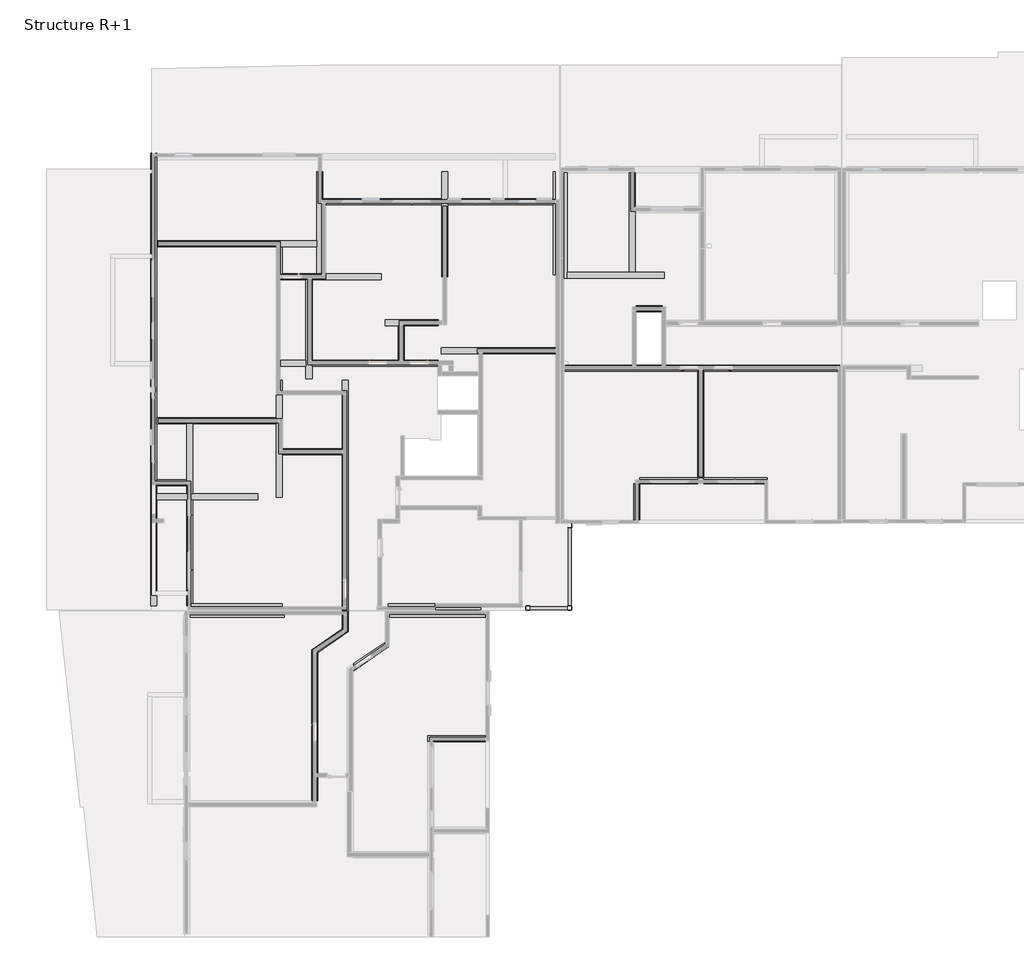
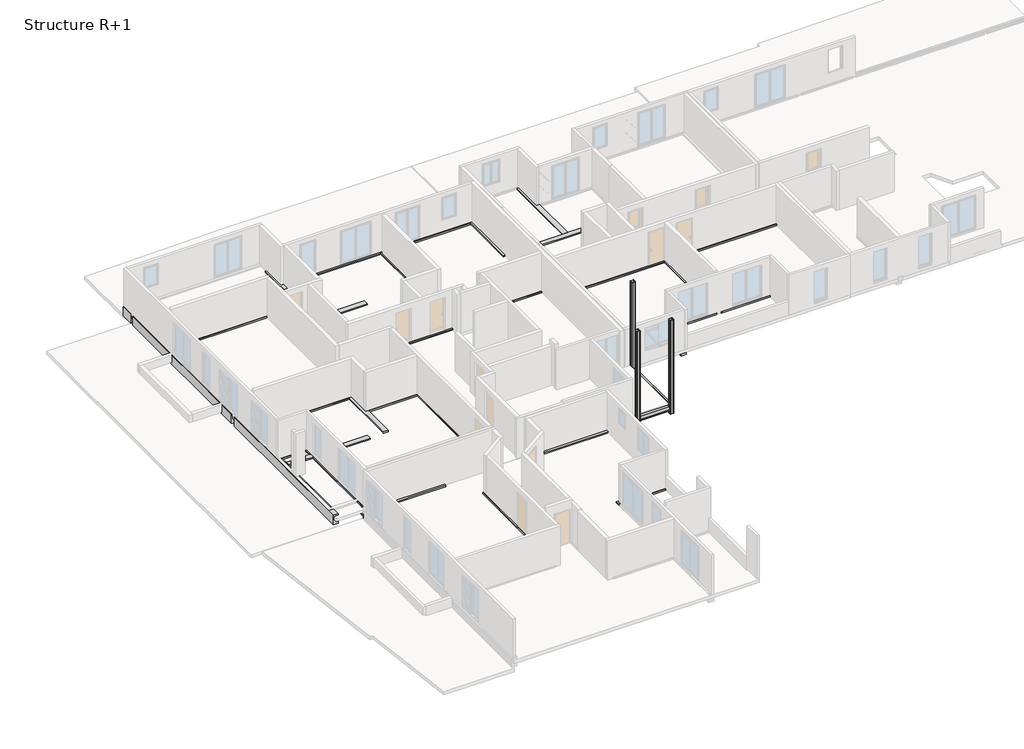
# One storey, part 9 of 11: 41 beams, 3 columns.
"""IFC4 building model written with IfcOpenShell, lengths in millimetres."""

from ifc_helpers import new_model, si_unit, frame, origin, place, context, project, spatial, polyline, outline, extrude, faceted_brep, transform, mapped, element, save
from components import beam_300_x_600_mm_29036b1c, beam_300_x_600_mm_495a3724, poutre_poutre_universelle_ub_305x165x40ub_514a329c, poutre_poutre_universelle_ub_305x165x40ub_894c53d9, poutre_poutre_universelle_ub_305x165x40ub_04567ed0, poutre_poutre_universelle_ub_305x165x40ub_460f90cb, poutre_poutre_universelle_ub_305x165x40ub_2bbb945a, tube_de_construction_hss_hss203x203x12_7_1b0c818d

model = new_model("IFC4")

# Units and contexts
model_context = context("Model", 3, world=origin())
ifc_project = project(units=[si_unit("LENGTHUNIT", "METRE", prefix="MILLI")], contexts=[model_context])

# Site, building, storey
site = spatial("IfcSite", under=ifc_project)
building = spatial("IfcBuilding", under=site)
storey = spatial("IfcBuildingStorey", under=building, Name="Structure R+1", Elevation=3320.0)

# Beams
placement = place(None, origin())
element("IfcBeam", 1, ObjectType="Poutre rectangulaire - Béton : 300 x 600 mm", at=placement, inside=storey, context=model_context, shape_type="Brep", body=[
    faceted_brep([(3506.907833, 32823.2515484, 2720.0), (3506.907833, 32823.2515484, 3320.0), (3536.9058449, 32823.2515484, 3320.0), (3536.9058449, 32823.2515484, 2720.0), (3506.907833, 20929.2306044, 3320.0), (3506.907833, 20929.2306044, 2720.0), (3506.907833, 10335.465256, 2720.0), (3506.907833, 10335.465256, 3320.0), (3751.4301413, 20929.2306044, 2720.0), (3751.4301413, 21229.2306044, 2720.0), (3506.907833, 21229.2306044, 2720.0), (3506.907833, 31818.092309, 2720.0), (3656.9078335, 31818.092309, 2720.0), (3656.9078335, 32028.092309, 2720.0), (3506.907833, 32028.092309, 2720.0), (3536.9058449, 32810.6398567, 2720.0), (3746.9058449, 32810.6398567, 2720.0), (3746.9058449, 32823.2515484, 2720.0), (3806.907833, 32823.2515484, 2720.0), (3806.907833, 32800.6398567, 2720.0), (3806.907833, 32500.6398567, 2720.0), (3806.907833, 19681.3462278, 2720.0), (3806.907833, 19381.3462278, 2720.0), (3806.907833, 16603.5845344, 2720.0), (3806.907833, 16303.5845344, 2720.0), (3806.907833, 15899.6332908, 2720.0), (3806.907833, 15599.6332908, 2720.0), (3806.907833, 10335.465256, 2720.0), (3806.907833, 32823.2515484, 3320.0), (3806.907833, 32800.6398567, 3320.0), (3806.907833, 32500.6398567, 3320.0), (3806.907833, 19681.3462278, 3320.0), (3806.907833, 19381.3462278, 3320.0), (3806.907833, 16603.5845344, 3320.0), (3806.907833, 16303.5845344, 3320.0), (3806.907833, 15899.6332908, 3320.0), (3806.907833, 15599.6332908, 3320.0), (3806.907833, 10335.465256, 3320.0), (3751.4301413, 21229.2306044, 3320.0), (3751.4301413, 20929.2306044, 3320.0), (3746.9058449, 32823.2515484, 3320.0), (3746.9058449, 32810.6398567, 3320.0), (3536.9058449, 32810.6398567, 3320.0), (3506.907833, 32028.092309, 3320.0), (3536.9058449, 32028.092309, 3320.0), (3536.9058449, 31818.092309, 3320.0), (3506.907833, 31818.092309, 3320.0), (3506.907833, 21229.2306044, 3320.0), (3536.9058449, 31818.092309, 3230.0), (3656.9078335, 31818.092309, 3230.0), (3656.9078335, 32028.092309, 3230.0), (3536.9058449, 32028.092309, 3230.0)], [[[0, 1, 2, 3]], [[4, 5, 6, 7]], [[8, 9, 10, 11, 12, 13, 14, 0, 3, 15, 16, 17, 18, 19, 20, 21, 22, 23, 24, 25, 26, 27, 6, 5]], [[18, 28, 29, 30, 31, 32, 33, 34, 35, 36, 37, 27, 26, 25, 24, 23, 22, 21, 20, 19]], [[38, 39, 4, 7, 37, 36, 35, 34, 33, 32, 31, 30, 29, 28, 40, 41, 42, 2, 1, 43, 44, 45, 46, 47]], [[8, 39, 38, 9]], [[39, 8, 5, 4]], [[9, 38, 47, 10]], [[10, 47, 46, 11]], [[12, 11, 46, 45, 48, 49]], [[14, 13, 50, 51, 44, 43]], [[1, 0, 14, 43]], [[7, 6, 27, 37]], [[16, 41, 40, 17]], [[42, 15, 3, 2]], [[41, 16, 15, 42]], [[28, 18, 17, 40]], [[12, 49, 50, 13]], [[48, 45, 44, 51]], [[49, 48, 51, 50]]]),
])
element("IfcBeam", 2, ObjectType="Poutre rectangulaire - Béton : 300 x 600 mm", at=placement, inside=storey, context=model_context, shape_type="Brep", body=[
    faceted_brep([(17949.2548774, 26679.7079561, 3320.0), (17949.2548774, 26679.7079561, 2720.0), (18249.2548774, 26679.7079561, 2720.0), (18249.2548774, 26679.7079561, 3320.0), (17949.2548774, 31905.1079561, 3320.0), (18249.2548774, 31905.1079561, 3320.0), (18249.2548774, 31905.1079561, 2720.0), (17949.2548774, 31905.1079561, 2720.0), (17949.2548774, 30260.628369, 3320.0), (17949.2548774, 30350.6398567, 3320.0), (17949.2548774, 30510.6398567, 3320.0), (17949.2548774, 30560.628369, 3320.0), (17949.2548774, 30560.628369, 2720.0), (17949.2548774, 30260.628369, 2720.0), (18249.2548774, 30560.628369, 2720.0), (18249.2548774, 30260.628369, 2720.0), (18249.2548774, 30560.628369, 3320.0), (18249.2548774, 30510.6398567, 3320.0), (18249.2548774, 30350.6398567, 3320.0), (18249.2548774, 30260.628369, 3320.0)], [[[0, 1, 2, 3]], [[4, 5, 6, 7]], [[1, 0, 8, 9, 10, 11, 4, 7, 12, 13]], [[2, 1, 13, 12, 7, 6, 14, 15]], [[3, 2, 15, 14, 6, 5, 16, 17, 18, 19]], [[0, 3, 19, 18, 17, 16, 5, 4, 11, 10, 9, 8]]]),
])
element("IfcBeam", 3, ObjectType="Poutre rectangulaire - Béton : 300 x 600 mm", at=placement, inside=storey, context=model_context, shape_type="Brep", body=[
    faceted_brep([(23499.3836177, 26779.7079561, 3320.0), (23499.3836177, 26779.7079561, 2720.0), (23799.3836177, 26779.7079561, 2720.0), (23799.3836177, 26779.7079561, 3320.0), (23499.3836177, 31905.1079561, 2720.0), (23499.3836177, 31905.1079561, 3320.0), (23609.3795366, 31905.1079561, 3320.0), (23609.3795366, 31905.1079561, 2720.0), (23499.3836177, 30260.628369, 3320.0), (23499.3836177, 30350.6398567, 3320.0), (23499.3836177, 30510.6398567, 3320.0), (23499.3836177, 30560.628369, 3320.0), (23499.3836177, 30560.628369, 2720.0), (23499.3836177, 30260.628369, 2720.0), (23609.3795366, 30510.6398567, 2720.0), (23799.3836177, 30510.6398567, 2720.0), (23799.3836177, 30510.6398567, 3320.0), (23609.3795366, 30510.6398567, 3320.0)], [[[0, 1, 2, 3]], [[4, 5, 6, 7]], [[1, 0, 8, 9, 10, 11, 5, 4, 12, 13]], [[2, 1, 13, 12, 4, 7, 14, 15]], [[3, 2, 15, 16]], [[0, 3, 16, 17, 6, 5, 11, 10, 9, 8]], [[17, 14, 7, 6]], [[14, 17, 16, 15]]]),
])
element("IfcBeam", 4, ObjectType="Poutre rectangulaire - Béton : 300 x 600 mm", at=placement, inside=storey, context=model_context, shape_type="Brep", body=[
    faceted_brep([(23889.3830554, 31860.3155595, 3230.0), (23889.3830554, 31860.3155595, 3320.0), (23939.4686156, 31860.3155595, 3320.0), (23939.4686156, 31860.3155595, 3230.0), (24189.3830554, 26623.3438639, 3320.0), (24189.3830554, 26623.3438639, 3230.0), (24189.3830554, 26923.3438639, 3230.0), (24189.3830554, 31857.4959984, 3230.0), (24189.3830554, 31857.4959984, 3320.0), (24189.3830554, 26923.3438639, 3320.0), (23889.3830554, 26623.3438639, 3320.0), (24031.9389593, 31857.4959984, 3320.0), (23939.4686156, 31857.4959984, 3320.0), (23889.3830554, 26623.3438639, 3230.0), (23939.4686156, 31857.4959984, 3230.0), (24031.9389593, 31857.4959984, 3230.0)], [[[0, 1, 2, 3]], [[4, 5, 6, 7, 8, 9]], [[1, 10, 4, 9, 8, 11, 12, 2]], [[13, 0, 3, 14, 15, 7, 6, 5]], [[1, 0, 13, 10]], [[14, 12, 11, 8, 7, 15]], [[4, 10, 13, 5]], [[12, 14, 3, 2]]]),
    faceted_brep([(23889.3830554, 26623.3438639, 2720.0), (23889.3830554, 31860.3155595, 2720.0), (23939.4686156, 31860.3155595, 2720.0), (23939.4686156, 31857.4959984, 2720.0), (24189.3830554, 31857.4959984, 2720.0), (24189.3830554, 26923.3438639, 2720.0), (24189.3830554, 26623.3438639, 2720.0), (23889.3830554, 31860.3155595, 3030.0), (23889.3830554, 26623.3438639, 3030.0), (24189.3830554, 26623.3438639, 3030.0), (24189.3830554, 26923.3438639, 3030.0), (24189.3830554, 31857.4959984, 3030.0), (23939.4686156, 31857.4959984, 3030.0), (23939.4686156, 31860.3155595, 3030.0)], [[[0, 1, 2, 3, 4, 5, 6]], [[7, 1, 0, 8]], [[7, 8, 9, 10, 11, 12, 13]], [[1, 7, 13, 2]], [[9, 6, 5, 4, 11, 10]], [[3, 12, 11, 4]], [[0, 6, 9, 8]], [[12, 3, 2, 13]]]),
])
element("IfcBeam", 5, ObjectType="Poutre rectangulaire - Béton : 300 x 600 mm", at=placement, inside=storey, context=model_context, shape_type="SweptSolid", body=[
    extrude(outline(polyline([(30560.628369, 3320.0), (30560.628369, 2720.0), (30260.628369, 2720.0), (30260.628369, 3320.0), (30350.6398567, 3320.0), (30350.6398567, 3230.0), (30510.6398567, 3230.0), (30510.6398567, 3320.0), (30560.628369, 3320.0)])), frame((18249.2548774, 0.0, 0.0), z_axis=(1.0, 0.0, 0.0), x_axis=(0.0, 1.0, 0.0)), (0.0, 0.0, 1.0), 5250.1287403),
    extrude(outline(polyline([(30350.6398567, 3230.0), (30510.6398567, 3230.0), (30510.6398567, 3320.0), (30560.628369, 3320.0), (30560.628369, 2720.0), (30260.628369, 2720.0), (30260.628369, 3320.0), (30350.6398567, 3320.0), (30350.6398567, 3230.0)])), frame((12053.2655763, 0.0, 0.0), z_axis=(1.0, 0.0, 0.0), x_axis=(0.0, 1.0, 0.0)), (0.0, 0.0, 1.0), 5895.9893011),
])
element("IfcBeam", 6, ObjectType="Poutre rectangulaire - Béton : 300 x 600 mm", at=placement, inside=storey, context=model_context, shape_type="Brep", body=[
    faceted_brep([(11753.2655763, 31904.9893421, 3320.0), (12053.2655763, 31904.9893421, 3320.0), (12053.2655763, 31904.9893421, 2720.0), (11753.2655763, 31904.9893421, 2720.0), (11753.2655763, 28474.6168533, 2720.0), (11753.2655763, 28174.6168533, 2720.0), (11753.2655763, 26837.1707281, 2720.0), (11753.2655763, 26837.1707281, 3320.0), (11753.2655763, 28174.6168533, 3320.0), (11753.2655763, 28474.6168533, 3320.0), (12053.2655763, 30560.628369, 2720.0), (12053.2655763, 30260.628369, 2720.0), (12053.2655763, 26837.1707281, 2720.0), (12053.2655763, 30560.628369, 3320.0), (12053.2655763, 30510.6398567, 3320.0), (12053.2655763, 30350.6398567, 3320.0), (12053.2655763, 30260.628369, 3320.0), (12053.2655763, 26837.1707281, 3320.0)], [[[0, 1, 2, 3]], [[0, 3, 4, 5, 6, 7, 8, 9]], [[3, 2, 10, 11, 12, 6, 5, 4]], [[2, 1, 13, 14, 15, 16, 17, 12, 11, 10]], [[1, 0, 9, 8, 7, 17, 16, 15, 14, 13]], [[7, 6, 12, 17]]]),
])
element("IfcBeam", 7, ObjectType="Poutre rectangulaire - Béton : 300 x 600 mm", at=placement, inside=storey, context=model_context, shape_type="Brep", body=[
    faceted_brep([(14958.844284, 26537.1707281, 3320.0), (14958.844284, 26537.1707281, 2720.0), (14958.844284, 26837.1707281, 2720.0), (14958.844284, 26837.1707281, 3320.0), (11511.7134936, 26537.1707281, 3320.0), (11211.7134936, 26537.1707281, 3320.0), (9728.0971315, 26537.1707281, 3320.0), (9728.0971315, 26537.1707281, 2720.0), (11211.7134936, 26537.1707281, 2720.0), (11511.7134936, 26537.1707281, 2720.0), (9728.0971315, 26837.1707281, 2720.0), (10028.0971315, 26837.1707281, 2720.0), (11753.2655763, 26837.1707281, 2720.0), (12053.2655763, 26837.1707281, 2720.0), (9728.0971315, 26837.1707281, 3320.0), (10028.0971315, 26837.1707281, 3320.0), (11753.2655763, 26837.1707281, 3320.0), (12053.2655763, 26837.1707281, 3320.0)], [[[0, 1, 2, 3]], [[1, 0, 4, 5, 6, 7, 8, 9]], [[2, 1, 9, 8, 7, 10, 11, 12, 13]], [[3, 2, 13, 12, 11, 10, 14, 15, 16, 17]], [[0, 3, 17, 16, 15, 14, 6, 5, 4]], [[7, 6, 14, 10]]]),
])
element("IfcBeam", 8, ObjectType="Poutre rectangulaire - Béton : 300 x 600 mm", at=placement, inside=storey, context=model_context, shape_type="Brep", body=[
    faceted_brep([(11211.7134936, 21621.4699718, 3320.0), (11211.7134936, 21621.4699718, 2720.0), (11511.7134936, 21621.4699718, 2720.0), (11511.7134936, 21621.4699718, 3320.0), (11211.7134936, 22228.2793913, 3320.0), (11211.7134936, 22528.2793913, 3320.0), (11211.7134936, 26537.1707281, 3320.0), (11211.7134936, 26537.1707281, 2720.0), (11211.7134936, 22528.2793913, 2720.0), (11211.7134936, 22228.2793913, 2720.0), (11511.7134936, 26537.1707281, 2720.0), (11511.7134936, 22528.2793913, 2720.0), (11511.7134936, 22228.2793913, 2720.0), (11511.7134936, 26537.1707281, 3320.0), (11511.7134936, 22528.2793913, 3320.0), (11511.7134936, 22228.2793913, 3320.0)], [[[0, 1, 2, 3]], [[1, 0, 4, 5, 6, 7, 8, 9]], [[2, 1, 9, 8, 7, 10, 11, 12]], [[3, 2, 12, 11, 10, 13, 14, 15]], [[0, 3, 15, 14, 13, 6, 5, 4]], [[7, 6, 13, 10]]]),
])
element("IfcBeam", 9, ObjectType="Poutre rectangulaire - Béton : 300 x 600 mm", at=placement, inside=storey, context=model_context, shape_type="Brep", body=[
    faceted_brep([(9955.8905136, 22528.2793913, 3320.0), (9955.8905136, 22528.2793913, 2720.0), (9955.8905136, 22228.2793913, 2720.0), (9955.8905136, 22228.2793913, 3320.0), (11211.7134936, 22528.2793913, 3320.0), (11211.7134936, 22528.2793913, 2720.0), (11211.7134936, 22228.2793913, 2720.0), (11211.7134936, 22228.2793913, 3320.0)], [[[0, 1, 2, 3]], [[1, 0, 4, 5]], [[2, 1, 5, 6]], [[3, 2, 6, 7]], [[0, 3, 7, 4]], [[5, 4, 7, 6]]]),
    faceted_brep([(17777.2905136, 22528.2793913, 3320.0), (17777.2905136, 22228.2793913, 3320.0), (17777.2905136, 22228.2793913, 2720.0), (17777.2905136, 22528.2793913, 2720.0), (11511.7134936, 22528.2793913, 3320.0), (11511.7134936, 22528.2793913, 2720.0), (11511.7134936, 22228.2793913, 2720.0), (11511.7134936, 22228.2793913, 3320.0), (16101.5704733, 22528.2793913, 2720.0), (15801.5704733, 22528.2793913, 2720.0), (15801.5704733, 22528.2793913, 3320.0), (16101.5704733, 22528.2793913, 3320.0)], [[[0, 1, 2, 3]], [[4, 5, 6, 7]], [[0, 3, 8, 9, 5, 4, 10, 11]], [[3, 2, 6, 5, 9, 8]], [[2, 1, 7, 6]], [[1, 0, 11, 10, 4, 7]]]),
])
element("IfcBeam", 10, ObjectType="Poutre rectangulaire - Béton : 300 x 600 mm", at=placement, inside=storey, context=model_context, shape_type="Brep", body=[
    faceted_brep([(15152.3745996, 24553.1590231, 3320.0), (15152.3745996, 24553.1590231, 2720.0), (15152.3745996, 24253.1590231, 2720.0), (15152.3745996, 24253.1590231, 3320.0), (17777.7745996, 24553.1590231, 3320.0), (17777.7745996, 24253.1590231, 3320.0), (17777.7745996, 24253.1590231, 2720.0), (17777.7745996, 24553.1590231, 2720.0), (16101.5704733, 24253.1590231, 2720.0), (15801.5704733, 24253.1590231, 2720.0), (16101.5704733, 24253.1590231, 3320.0), (15801.5704733, 24253.1590231, 3320.0)], [[[0, 1, 2, 3]], [[4, 5, 6, 7]], [[1, 0, 4, 7]], [[2, 1, 7, 6, 8, 9]], [[3, 2, 9, 8, 6, 5, 10, 11]], [[0, 3, 11, 10, 5, 4]]]),
])
element("IfcBeam", 11, ObjectType="Poutre rectangulaire - Béton : 300 x 600 mm", at=placement, inside=storey, context=model_context, shape_type="SweptSolid", body=[
    extrude(outline(polyline([(16101.5704733, 22528.2793913), (15801.5704733, 22528.2793913), (15801.5704733, 24253.1590231), (16101.5704733, 24253.1590231), (16101.5704733, 22528.2793913)])), frame((0.0, 0.0, 2720.0), z_axis=(0.0, 0.0, 1.0), x_axis=(1.0, 0.0, 0.0)), (0.0, 0.0, 1.0), 600.0),
])
element("IfcBeam", 12, ObjectType="Poutre rectangulaire - Béton : 300 x 600 mm", at=placement, inside=storey, context=model_context, shape_type="Brep", body=[
    faceted_brep([(3845.3857106, 28174.6168533, 3320.0), (3845.3857106, 28474.6168533, 3320.0), (3845.3857106, 28474.6168533, 2720.0), (3845.3857106, 28174.6168533, 2720.0), (9728.0971315, 28174.6168533, 2720.0), (10028.0971315, 28174.6168533, 2720.0), (11753.2655763, 28174.6168533, 2720.0), (11753.2655763, 28174.6168533, 3320.0), (10028.0971315, 28174.6168533, 3320.0), (9728.0971315, 28174.6168533, 3320.0), (11753.2655763, 28474.6168533, 2720.0), (11753.2655763, 28474.6168533, 3320.0)], [[[0, 1, 2, 3]], [[0, 3, 4, 5, 6, 7, 8, 9]], [[3, 2, 10, 6, 5, 4]], [[2, 1, 11, 10]], [[1, 0, 9, 8, 7, 11]], [[7, 6, 10, 11]]]),
])
element("IfcBeam", 13, ObjectType="Poutre rectangulaire - Béton : 300 x 600 mm", at=placement, inside=storey, context=model_context, shape_type="SweptSolid", body=[
    extrude(outline(polyline([(10028.0971315, 26837.1707281), (9728.0971315, 26837.1707281), (9728.0971315, 28174.6168533), (10028.0971315, 28174.6168533), (10028.0971315, 26837.1707281)])), frame((0.0, 0.0, 2720.0), z_axis=(0.0, 0.0, 1.0), x_axis=(1.0, 0.0, 0.0)), (0.0, 0.0, 1.0), 600.0),
])
element("IfcBeam", 14, ObjectType="Poutre rectangulaire - Béton : 300 x 600 mm", at=placement, inside=storey, context=model_context, shape_type="Brep", body=[
    faceted_brep([(9728.0971315, 19381.3462278, 2720.0), (9728.0971315, 19381.3462278, 3320.0), (5579.8938199, 19381.3462278, 3320.0), (5279.8938199, 19381.3462278, 3320.0), (3806.907833, 19381.3462278, 3320.0), (3806.907833, 19381.3462278, 2720.0), (5279.8938199, 19381.3462278, 2720.0), (5579.8938199, 19381.3462278, 2720.0), (9728.0971315, 19681.3462278, 2720.0), (3806.907833, 19681.3462278, 2720.0), (9728.0971315, 19681.3462278, 3320.0), (3806.907833, 19681.3462278, 3320.0)], [[[0, 1, 2, 3, 4, 5, 6, 7]], [[8, 0, 7, 6, 5, 9]], [[10, 8, 9, 11]], [[1, 10, 11, 4, 3, 2]], [[1, 0, 8, 10]], [[5, 4, 11, 9]]]),
])
element("IfcBeam", 15, ObjectType="Poutre rectangulaire - Béton : 300 x 600 mm", at=placement, inside=storey, context=model_context, shape_type="Brep", body=[
    faceted_brep([(9728.0971315, 15737.0479375, 3320.0), (9728.0971315, 15737.0479375, 2720.0), (10028.0971315, 15737.0479375, 2720.0), (10028.0971315, 15737.0479375, 3320.0), (9728.0971315, 21538.4479375, 3320.0), (10028.0971315, 21538.4479375, 3320.0), (10028.0971315, 21538.4479375, 2720.0), (9728.0971315, 21538.4479375, 2720.0), (9728.0971315, 19381.3462278, 3320.0), (9728.0971315, 19681.3462278, 3320.0), (9728.0971315, 19681.3462278, 2720.0), (9728.0971315, 19381.3462278, 2720.0), (10028.0971315, 18134.4405074, 2720.0), (10028.0971315, 17834.4405074, 2720.0), (10028.0971315, 18134.4405074, 3320.0), (10028.0971315, 17834.4405074, 3320.0)], [[[0, 1, 2, 3]], [[4, 5, 6, 7]], [[1, 0, 8, 9, 4, 7, 10, 11]], [[2, 1, 11, 10, 7, 6, 12, 13]], [[3, 2, 13, 12, 6, 5, 14, 15]], [[0, 3, 15, 14, 5, 4, 9, 8]]]),
])
element("IfcBeam", 16, ObjectType="Poutre rectangulaire - Béton : 300 x 600 mm", at=placement, inside=storey, context=model_context, shape_type="Brep", body=[
    faceted_brep([(13025.0967812, 21538.3874774, 3320.0), (13325.0967812, 21538.3874774, 3320.0), (13325.0967812, 21538.3874774, 2720.0), (13025.0967812, 21538.3874774, 2720.0), (13025.0967812, 18134.4405074, 2720.0), (13025.0967812, 17834.4405074, 2720.0), (13025.0967812, 9204.6450429, 2720.0), (13025.0967812, 8841.1797514, 2720.0), (13025.0967812, 8841.1797514, 3320.0), (13025.0967812, 9204.6450429, 3320.0), (13025.0967812, 17834.4405074, 3320.0), (13025.0967812, 18134.4405074, 3320.0), (13325.0967812, 9046.3796982, 2720.0), (13325.0967812, 9046.3796982, 3320.0)], [[[0, 1, 2, 3]], [[0, 3, 4, 5, 6, 7, 8, 9, 10, 11]], [[3, 2, 12, 7, 6, 5, 4]], [[2, 1, 13, 12]], [[1, 0, 11, 10, 9, 8, 13]], [[8, 7, 12, 13]]]),
])
element("IfcBeam", 17, ObjectType="Poutre rectangulaire - Béton : 300 x 600 mm", at=placement, inside=storey, context=model_context, shape_type="Brep", body=[
    faceted_brep([(10022.5938159, 10135.465256, 3320.0), (10022.5938159, 10135.465256, 2720.0), (10022.5938159, 10435.465256, 2720.0), (10022.5938159, 10435.465256, 3320.0), (5329.893812, 10135.465256, 3320.0), (5329.893812, 10135.465256, 2720.0), (5329.893812, 10335.465256, 2720.0), (5279.8938199, 10335.465256, 2720.0), (5279.8938199, 10435.465256, 2720.0), (5579.8938199, 10435.465256, 2720.0), (5279.8938199, 10435.465256, 3320.0), (5329.893812, 10435.465256, 3320.0), (5489.893812, 10435.465256, 3320.0), (5579.8938199, 10435.465256, 3320.0), (5279.8938199, 10335.465256, 3320.0), (5329.893812, 10335.465256, 3320.0)], [[[0, 1, 2, 3]], [[1, 0, 4, 5]], [[2, 1, 5, 6, 7, 8, 9]], [[3, 2, 9, 8, 10, 11, 12, 13]], [[0, 3, 13, 12, 11, 10, 14, 15, 4]], [[10, 8, 7, 14]], [[6, 15, 14, 7]], [[15, 6, 5, 4]]]),
])
element("IfcBeam", 18, ObjectType="Poutre rectangulaire - Béton : 300 x 600 mm", at=placement, inside=storey, context=model_context, shape_type="Brep", body=[
    faceted_brep([(10122.3667008, 10055.4658562, 3320.0), (10122.3667008, 9755.4658562, 3320.0), (10122.3667008, 9755.4658562, 2720.0), (10122.3667008, 10055.4658562, 2720.0), (5184.2512184, 10055.4658562, 2720.0), (5184.2512184, 10055.4658562, 3320.0), (5432.5654203, 9755.4658562, 2720.0), (5432.5654203, 9987.8502714, 2720.0), (5184.2512184, 9987.8502714, 2720.0), (5432.5654203, 9755.4658562, 3320.0), (5184.2512184, 9987.8502714, 3320.0), (5432.5654203, 9987.8502714, 3320.0), (5432.5654203, 9895.4625547, 3320.0), (5432.5654203, 9987.8502714, 3230.0), (5184.2512184, 9987.8502714, 3030.0)], [[[0, 1, 2, 3]], [[0, 3, 4, 5]], [[3, 2, 6, 7, 8, 4]], [[2, 1, 9, 6]], [[1, 0, 5, 10, 11, 12, 9]], [[11, 13, 7, 6, 9, 12]], [[7, 13, 11, 10, 14, 8]], [[5, 4, 8, 14, 10]]]),
])
element("IfcBeam", 19, ObjectType="Poutre rectangulaire - Béton : 300 x 600 mm", at=placement, inside=storey, context=model_context, shape_type="Brep", body=[
    faceted_brep([(8819.607833, 15599.6332908, 3320.0), (8819.607833, 15599.6332908, 2720.0), (8819.607833, 15899.6332908, 2720.0), (8819.607833, 15899.6332908, 3320.0), (5579.8938199, 15599.6332908, 3320.0), (5489.893812, 15599.6332908, 3320.0), (5329.893812, 15599.6332908, 3320.0), (5279.8938199, 15599.6332908, 3320.0), (3806.907833, 15599.6332908, 3320.0), (3806.907833, 15599.6332908, 2720.0), (5279.8938199, 15599.6332908, 2720.0), (5579.8938199, 15599.6332908, 2720.0), (3806.907833, 15899.6332908, 2720.0), (5279.8938199, 15899.6332908, 2720.0), (5579.8938199, 15899.6332908, 2720.0), (3806.907833, 15899.6332908, 3320.0), (5279.8938199, 15899.6332908, 3320.0), (5329.893812, 15899.6332908, 3320.0), (5489.893812, 15899.6332908, 3320.0), (5579.8938199, 15899.6332908, 3320.0)], [[[0, 1, 2, 3]], [[1, 0, 4, 5, 6, 7, 8, 9, 10, 11]], [[2, 1, 11, 10, 9, 12, 13, 14]], [[3, 2, 14, 13, 12, 15, 16, 17, 18, 19]], [[0, 3, 19, 18, 17, 16, 15, 8, 7, 6, 5, 4]], [[9, 8, 15, 12]]]),
])
element("IfcBeam", 20, ObjectType="Poutre rectangulaire - Béton : 300 x 600 mm", at=placement, inside=storey, context=model_context, shape_type="Brep", body=[
    faceted_brep([(5279.8938199, 15899.6332908, 2720.0), (5279.8938199, 15899.6332908, 3320.0), (5279.8938199, 16303.5845344, 3320.0), (5279.8938199, 16603.5845344, 3320.0), (5279.8938199, 19381.3462278, 3320.0), (5279.8938199, 19381.3462278, 2720.0), (5279.8938199, 16603.5845344, 2720.0), (5279.8938199, 16303.5845344, 2720.0), (5579.8938199, 15899.6332908, 2720.0), (5579.8938199, 19381.3462278, 2720.0), (5579.8938199, 15899.6332908, 3320.0), (5579.8938199, 19381.3462278, 3320.0), (5329.893812, 15899.6332908, 3320.0), (5329.893812, 16515.4652425, 3320.0), (5489.893812, 16515.4652425, 3320.0), (5489.893812, 15899.6332908, 3320.0), (5329.893812, 15899.6332908, 3230.0), (5329.893812, 16515.4652425, 3230.0), (5489.893812, 15899.6332908, 3230.0), (5489.893812, 16515.4652425, 3230.0)], [[[0, 1, 2, 3, 4, 5, 6, 7]], [[8, 0, 7, 6, 5, 9]], [[10, 8, 9, 11]], [[12, 13, 14, 15, 10, 11, 4, 3, 2, 1]], [[16, 17, 13, 12]], [[1, 0, 8, 10, 15, 18, 16, 12]], [[17, 19, 14, 13]], [[19, 17, 16, 18]], [[5, 4, 11, 9]], [[14, 19, 18, 15]]]),
    faceted_brep([(5279.8938199, 15599.6332908, 2720.0), (5279.8938199, 15599.6332908, 3320.0), (5329.893812, 15599.6332908, 3320.0), (5329.893812, 15599.6332908, 3230.0), (5489.893812, 15599.6332908, 3230.0), (5489.893812, 15599.6332908, 3320.0), (5579.8938199, 15599.6332908, 3320.0), (5579.8938199, 15599.6332908, 2720.0), (5279.8938199, 10435.465256, 2720.0), (5579.8938199, 10435.465256, 2720.0), (5579.8938199, 10435.465256, 3320.0), (5489.893812, 10435.465256, 3320.0), (5489.893812, 10435.465256, 3230.0), (5329.893812, 10435.465256, 3230.0), (5329.893812, 10435.465256, 3320.0), (5279.8938199, 10435.465256, 3320.0)], [[[0, 1, 2, 3, 4, 5, 6, 7]], [[8, 9, 10, 11, 12, 13, 14, 15]], [[4, 3, 13, 12]], [[1, 0, 8, 15]], [[0, 7, 9, 8]], [[7, 6, 10, 9]], [[6, 5, 11, 10]], [[3, 2, 14, 13]], [[5, 4, 12, 11]], [[2, 1, 15, 14]]]),
])
element("IfcBeam", 21, ObjectType="Poutre rectangulaire - Béton : 300 x 600 mm", at=placement, inside=storey, context=model_context, shape_type="SweptSolid", body=[
    extrude(outline(polyline([(3806.907833, 16303.5845344), (3806.907833, 16603.5845344), (5279.8938199, 16603.5845344), (5279.8938199, 16303.5845344), (3806.907833, 16303.5845344)])), frame((0.0, 0.0, 2720.0), z_axis=(0.0, 0.0, 1.0), x_axis=(1.0, 0.0, 0.0)), (0.0, 0.0, 1.0), 600.0),
])
element("IfcBeam", 22, ObjectType="Poutre rectangulaire - Béton : 300 x 600 mm", at=placement, inside=storey, context=model_context, shape_type="SweptSolid", body=[
    extrude(outline(polyline([(10028.0971315, 17834.4405074), (10028.0971315, 18134.4405074), (13025.0967812, 18134.4405074), (13025.0967812, 17834.4405074), (10028.0971315, 17834.4405074)])), frame((0.0, 0.0, 2720.0), z_axis=(0.0, 0.0, 1.0), x_axis=(1.0, 0.0, 0.0)), (0.0, 0.0, 1.0), 600.0),
])
element("IfcBeam", 23, ObjectType="Poutre rectangulaire - Béton : 300 x 600 mm", at=placement, inside=storey, context=model_context, shape_type="SweptSolid", body=[
    extrude(outline(polyline([(15147.7086163, 8533.8061873), (15317.078252, 8286.1896966), (13571.3920271, 7092.1406286), (13571.3920271, 7455.6059202), (15147.7086163, 8533.8061873)])), frame((0.0, 0.0, 2720.0), z_axis=(0.0, 0.0, 1.0), x_axis=(1.0, 0.0, 0.0)), (0.0, 0.0, 1.0), 600.0),
])
element("IfcBeam", 24, ObjectType="Poutre rectangulaire - Béton : 300 x 600 mm", at=placement, inside=storey, context=model_context, shape_type="Brep", body=[
    faceted_brep([(20168.2499099, 3881.8241455, 3320.0), (20168.2499099, 3581.8241455, 3320.0), (20168.2499099, 3581.8241455, 2720.0), (20168.2499099, 3881.8241455, 2720.0), (17573.1790818, 3881.8241455, 2720.0), (17573.1790818, 3881.8241455, 3030.0), (17273.1790818, 3881.8241455, 3030.0), (17273.1790818, 3881.8241455, 3320.0), (17573.1790818, 3581.8241455, 2720.0), (17573.1790818, 3581.8241455, 3320.0), (17273.1790818, 3581.8241455, 3320.0), (17273.1790818, 3581.8241455, 3030.0), (17573.1790818, 3581.8241455, 3030.0)], [[[0, 1, 2, 3]], [[0, 3, 4, 5, 6, 7]], [[3, 2, 8, 4]], [[2, 1, 9, 10, 11, 12, 8]], [[1, 0, 7, 10, 9]], [[12, 5, 4, 8]], [[5, 12, 11, 6]], [[10, 7, 6, 11]]]),
])
element("IfcBeam", 25, ObjectType="Poutre rectangulaire - Béton : 300 x 600 mm", at=placement, inside=storey, context=model_context, shape_type="Brep", body=[
    faceted_brep([(11787.2274568, 8357.9426449, 2720.0), (11787.2274568, 8357.9426449, 3320.0), (11787.2274568, 7994.4773533, 3320.0), (11787.2274568, 636.6320402, 3320.0), (11787.2274568, 636.6320402, 2720.0), (11787.2274568, 7994.4773533, 2720.0), (11487.2274568, 636.6320402, 2720.0), (11487.2274568, 8152.7426981, 2720.0), (11487.2274568, 636.6320402, 3320.0), (11487.2274568, 8152.7426981, 3320.0)], [[[0, 1, 2, 3, 4, 5]], [[4, 6, 7, 0, 5]], [[6, 8, 9, 7]], [[8, 3, 2, 1, 9]], [[4, 3, 8, 6]], [[1, 0, 7, 9]]]),
])
element("IfcBeam", 26, ObjectType="Poutre rectangulaire - Béton : 300 x 600 mm", at=placement, inside=storey, context=model_context, shape_type="SweptSolid", body=[
    extrude(outline(polyline([(11787.2274568, 7994.4773533), (11787.2274568, 8357.9426449), (13025.0967812, 9204.6450429), (13025.0967812, 8841.1797514), (11787.2274568, 7994.4773533)])), frame((0.0, 0.0, 2720.0), z_axis=(0.0, 0.0, 1.0), x_axis=(1.0, 0.0, 0.0)), (0.0, 0.0, 1.0), 600.0),
])
element("IfcBeam", 27, ObjectType="Poutre rectangulaire - Béton : 300 x 600 mm", at=placement, inside=storey, context=model_context, shape_type="Brep", body=[
    faceted_brep([(15299.2605642, 10435.465256, 3320.0), (15299.2605642, 10435.465256, 2720.0), (15299.2605642, 10135.465256, 2720.0), (15299.2605642, 10135.465256, 3230.0), (15299.2605642, 10285.465256, 3230.0), (15299.2605642, 10285.465256, 3320.0), (19904.6605642, 10435.465256, 3320.0), (19904.6605642, 10135.465256, 3320.0), (19904.6605642, 10135.465256, 2720.0), (19904.6605642, 10435.465256, 2720.0), (17640.104333, 10135.465256, 3320.0), (17640.104333, 10135.465256, 3230.0), (17640.104333, 10285.465256, 3320.0), (17640.104333, 10285.465256, 3230.0)], [[[0, 1, 2, 3, 4, 5]], [[6, 7, 8, 9]], [[1, 0, 6, 9]], [[2, 1, 9, 8]], [[8, 7, 10, 11, 3, 2]], [[7, 6, 0, 5, 12, 10]], [[4, 13, 12, 5]], [[13, 4, 3, 11]], [[12, 13, 11, 10]]]),
])
element("IfcBeam", 28, ObjectType="Poutre rectangulaire - Béton : 300 x 600 mm", at=placement, inside=storey, context=model_context, shape_type="SweptSolid", body=[
    extrude(outline(polyline([(27498.3960659, 14597.8380864), (27498.3960659, 16402.7235205), (27586.9796965, 16402.7235205), (27586.9796965, 14597.8380864), (27498.3960659, 14597.8380864)])), frame((0.0, 0.0, 3230.0), z_axis=(0.0, 0.0, 1.0), x_axis=(1.0, 0.0, 0.0)), (0.0, 0.0, 1.0), 90.0),
    extrude(outline(polyline([(27498.3960659, 16402.7235205), (27798.3960659, 16402.7235205), (27798.3960659, 14642.6998135), (27498.3960659, 14642.6998135), (27498.3960659, 16402.7235205)])), frame((0.0, 0.0, 2720.0), z_axis=(0.0, 0.0, 1.0), x_axis=(1.0, 0.0, 0.0)), (0.0, 0.0, 1.0), 310.0),
    extrude(outline(polyline([(27798.3960659, 16402.7235205), (27798.3960659, 14597.8380864), (27746.9796965, 14597.8380864), (27746.9796965, 16402.7235205), (27798.3960659, 16402.7235205)])), frame((0.0, 0.0, 3230.0), z_axis=(0.0, 0.0, 1.0), x_axis=(1.0, 0.0, 0.0)), (0.0, 0.0, 1.0), 90.0),
])
element("IfcBeam", 29, ObjectType="Poutre rectangulaire - Béton : 300 x 600 mm", at=placement, inside=storey, context=model_context, shape_type="SweptSolid", body=[
    extrude(outline(polyline([(34146.2574743, 16702.7235205), (34146.2574743, 16402.7235205), (30993.890362, 16402.7235205), (30993.890362, 16431.4013077), (34012.3966699, 16431.4013077), (34012.3966699, 16591.4013077), (30993.890362, 16591.4013077), (30993.890362, 16702.7235205), (34146.2574743, 16702.7235205)])), frame((0.0, 0.0, 3230.0), z_axis=(0.0, 0.0, 1.0), x_axis=(1.0, 0.0, 0.0)), (0.0, 0.0, 1.0), 90.0),
    extrude(outline(polyline([(34146.2574743, 16702.7235205), (34146.2574743, 16402.7235205), (30993.890362, 16402.7235205), (30993.890362, 16702.7235205), (34146.2574743, 16702.7235205)])), frame((0.0, 0.0, 2720.0), z_axis=(0.0, 0.0, 1.0), x_axis=(1.0, 0.0, 0.0)), (0.0, 0.0, 1.0), 310.0),
    extrude(outline(polyline([(27798.3960659, 16402.7235205), (27798.3960659, 16702.7235205), (30693.890362, 16702.7235205), (30693.890362, 16402.7235205), (27798.3960659, 16402.7235205)])), frame((0.0, 0.0, 2720.0), z_axis=(0.0, 0.0, 1.0), x_axis=(1.0, 0.0, 0.0)), (0.0, 0.0, 1.0), 310.0),
    extrude(outline(polyline([(30693.890362, 16402.7235205), (27798.3960659, 16402.7235205), (27798.3960659, 16431.4013077), (30693.890362, 16431.4013077), (30693.890362, 16402.7235205)])), frame((0.0, 0.0, 3230.0), z_axis=(0.0, 0.0, 1.0), x_axis=(1.0, 0.0, 0.0)), (0.0, 0.0, 1.0), 90.0),
    extrude(outline(polyline([(27798.3960659, 16702.7235205), (30693.890362, 16702.7235205), (30693.890362, 16591.4013077), (27798.3960659, 16591.4013077), (27798.3960659, 16702.7235205)])), frame((0.0, 0.0, 3230.0), z_axis=(0.0, 0.0, 1.0), x_axis=(1.0, 0.0, 0.0)), (0.0, 0.0, 1.0), 90.0),
])
element("IfcBeam", 30, ObjectType="Poutre rectangulaire - Béton : 300 x 600 mm", at=placement, inside=storey, context=model_context, shape_type="SweptSolid", body=[
    extrude(outline(polyline([(30993.890362, 16702.7235205), (30693.890362, 16702.7235205), (30693.890362, 21992.4973448), (30993.890362, 21992.4973448), (30993.890362, 16702.7235205)])), frame((0.0, 0.0, 3230.0), z_axis=(0.0, 0.0, 1.0), x_axis=(1.0, 0.0, 0.0)), (0.0, 0.0, 1.0), 90.0),
    extrude(outline(polyline([(30993.890362, 16702.7235205), (30693.890362, 16702.7235205), (30693.890362, 21992.4973448), (30993.890362, 21992.4973448), (30993.890362, 16702.7235205)])), frame((0.0, 0.0, 2720.0), z_axis=(0.0, 0.0, 1.0), x_axis=(1.0, 0.0, 0.0)), (0.0, 0.0, 1.0), 310.0),
])
element("IfcBeam", 31, ObjectType="Poutre rectangulaire - Béton : 300 x 600 mm", at=placement, inside=storey, context=model_context, shape_type="Brep", body=[
    faceted_brep([(37740.0455127, 22292.4973448, 3320.0), (37740.0455127, 21992.4973448, 3320.0), (37740.0455127, 21992.4973448, 3230.0), (37740.0455127, 22292.4973448, 3230.0), (24086.6455127, 21992.4973448, 3320.0), (24086.6455127, 22292.4973448, 3320.0), (24086.6455127, 22292.4973448, 2720.0), (24086.6455127, 21992.4973448, 2720.0), (24086.6455127, 21992.4973448, 3030.0), (24086.6455127, 22291.3798213, 3030.0), (24086.6455127, 22291.3798213, 3230.0), (24086.6455127, 21992.4973448, 3230.0), (30993.890362, 21992.4973448, 3320.0), (30693.890362, 21992.4973448, 3320.0), (30693.890362, 21992.4973448, 3230.0), (30993.890362, 21992.4973448, 3230.0), (37740.0455127, 22292.4973448, 2720.0), (37740.0455127, 21992.4973448, 2720.0), (30993.890362, 21992.4973448, 2720.0), (30693.890362, 21992.4973448, 2720.0), (28898.3678937, 22292.4973448, 3230.0), (28898.3678937, 22292.4973448, 3030.0), (37740.0455127, 22292.4973448, 3030.0), (24232.0816765, 22292.4973448, 3030.0), (27626.9395184, 22292.4973448, 3030.0), (27626.9395184, 22292.4973448, 3230.0), (24232.0816765, 22292.4973448, 3230.0), (28898.3678937, 22272.4973448, 3030.0), (27626.9395184, 22272.4973448, 3030.0), (24232.0816765, 22291.3798213, 3030.0), (30693.890362, 21992.4973448, 3030.0), (30993.890362, 21992.4973448, 3030.0), (37740.0455127, 21992.4973448, 3030.0), (27626.9395184, 22272.4973448, 3230.0), (28898.3678937, 22272.4973448, 3230.0), (24232.0816765, 22291.3798213, 3230.0)], [[[0, 1, 2, 3]], [[4, 5, 6, 7, 8, 9, 10, 11]], [[1, 12, 13, 4, 11, 14, 15, 2]], [[16, 17, 18, 19, 7, 6]], [[6, 5, 0, 3, 20, 21, 22, 16], [23, 24, 25, 26]], [[1, 0, 5, 4, 13, 12]], [[27, 28, 24, 23, 29, 9, 8, 30, 31, 32, 22, 21]], [[33, 34, 20, 3, 2, 15, 14, 11, 10, 35, 26, 25]], [[29, 35, 10, 9]], [[35, 29, 23, 26]], [[28, 33, 25, 24]], [[28, 27, 34, 33]], [[34, 27, 21, 20]], [[17, 16, 22, 32]], [[7, 19, 18, 17, 32, 31, 30, 8]]]),
])
element("IfcBeam", 32, ObjectType="Poutre rectangulaire - Béton : 300 x 600 mm", at=placement, inside=storey, context=model_context, shape_type="Brep", body=[
    faceted_brep([(28921.0960659, 25245.4956715, 3320.0), (28921.0960659, 24945.4956715, 3320.0), (28921.0960659, 24945.4956715, 3230.0), (28921.0960659, 25245.4956715, 3230.0), (27635.6960659, 24945.4956715, 3320.0), (27635.6960659, 25245.4956715, 3320.0), (27635.6960659, 25245.4956715, 3230.0), (27635.6960659, 25007.8260092, 3230.0), (27635.6960659, 25007.8260092, 3030.0), (27635.6960659, 25245.4956715, 3030.0), (27635.6960659, 25245.4956715, 2720.0), (27635.6960659, 24945.4956715, 2720.0), (28921.0960659, 24945.4956715, 2720.0), (28921.0960659, 24945.4956715, 3030.0), (28898.3678937, 24945.4956715, 3030.0), (28898.3678937, 24945.4956715, 3230.0), (28921.0960659, 25245.4956715, 2720.0), (28921.0960659, 25245.4956715, 3030.0), (28898.3678937, 25007.8260092, 3030.0), (28898.3678937, 25007.8260092, 3230.0)], [[[0, 1, 2, 3]], [[4, 5, 6, 7, 8, 9, 10, 11]], [[4, 11, 12, 13, 14, 15, 2, 1]], [[16, 12, 11, 10]], [[16, 10, 9, 17]], [[1, 0, 5, 4]], [[18, 14, 13, 17, 9, 8]], [[19, 7, 6, 3, 2, 15]], [[19, 18, 8, 7]], [[18, 19, 15, 14]], [[12, 16, 17, 13]], [[5, 0, 3, 6]]]),
])
element("IfcBeam", 33, ObjectType="Poutre rectangulaire - Béton : 300 x 600 mm", at=placement, inside=storey, context=model_context, shape_type="Brep", body=[
    faceted_brep([(27275.1224614, 31857.4959984, 3320.0), (27275.1224614, 31857.4959984, 3230.0), (27275.1224614, 26923.3438639, 3230.0), (27275.1224614, 26923.3438639, 3320.0), (27575.1224614, 31857.4959984, 3320.0), (27575.1224614, 26923.3438639, 3320.0), (27575.1224614, 29863.6283364, 3320.0), (27575.1224614, 30163.6283364, 3320.0), (27575.1224614, 31857.4959984, 3230.0), (27575.1224614, 30163.6283364, 3230.0), (27575.1224614, 29863.6283364, 3230.0), (27575.1224614, 26923.3438639, 3230.0)], [[[0, 1, 2, 3]], [[4, 0, 3, 5, 6, 7]], [[1, 8, 9, 10, 11, 2]], [[8, 4, 7, 6, 5, 11, 10, 9]], [[0, 4, 8, 1]], [[3, 2, 11, 5]]]),
    faceted_brep([(27275.1224614, 31857.4959984, 2720.0), (27575.1224614, 31857.4959984, 2720.0), (27575.1224614, 30163.6283364, 2720.0), (27575.1224614, 29863.6283364, 2720.0), (27575.1224614, 26923.3438639, 2720.0), (27275.1224614, 26923.3438639, 2720.0), (27575.1224614, 31857.4959984, 3030.0), (27575.1224614, 30163.6283364, 3030.0), (27575.1224614, 29863.6283364, 3030.0), (27575.1224614, 26923.3438639, 3030.0), (27275.1224614, 31857.4959984, 3030.0), (27275.1224614, 26923.3438639, 3030.0)], [[[0, 1, 2, 3, 4, 5]], [[1, 6, 7, 8, 9, 4, 3, 2]], [[1, 0, 10, 6]], [[6, 10, 11, 9, 8, 7]], [[10, 0, 5, 11]], [[5, 4, 9, 11]]]),
])
element("IfcBeam", 34, ObjectType="Poutre rectangulaire - Béton : 300 x 600 mm", at=placement, inside=storey, context=model_context, shape_type="Brep", body=[
    faceted_brep([(29010.5395351, 26923.3438639, 3320.0), (29010.5395351, 26623.3438639, 3320.0), (29010.5395351, 26623.3438639, 3230.0), (29010.5395351, 26923.3438639, 3230.0), (24189.3830554, 26623.3438639, 3320.0), (24189.3830554, 26623.3438639, 3230.0), (27575.1224614, 26923.3438639, 3320.0), (27275.1224614, 26923.3438639, 3320.0), (24189.3830554, 26923.3438639, 3320.0), (24189.3830554, 26923.3438639, 3230.0), (27275.1224614, 26923.3438639, 3230.0), (27575.1224614, 26923.3438639, 3230.0)], [[[0, 1, 2, 3]], [[1, 4, 5, 2]], [[1, 0, 6, 7, 8, 4]], [[4, 8, 9, 5]], [[3, 2, 5, 9, 10, 11]], [[8, 7, 6, 0, 3, 11, 10, 9]]]),
    faceted_brep([(29010.5395351, 26923.3438639, 2720.0), (29010.5395351, 26623.3438639, 2720.0), (24189.3830554, 26623.3438639, 2720.0), (24189.3830554, 26923.3438639, 2720.0), (27275.1224614, 26923.3438639, 2720.0), (27575.1224614, 26923.3438639, 2720.0), (24189.3830554, 26923.3438639, 3030.0), (27275.1224614, 26923.3438639, 3030.0), (27575.1224614, 26923.3438639, 3030.0), (29010.5395351, 26923.3438639, 3030.0), (29010.5395351, 26623.3438639, 3030.0), (24189.3830554, 26623.3438639, 3030.0)], [[[0, 1, 2, 3, 4, 5]], [[0, 5, 4, 3, 6, 7, 8, 9]], [[10, 9, 8, 7, 6, 11]], [[1, 0, 9, 10]], [[2, 1, 10, 11]], [[3, 2, 11, 6]]]),
])
beam_300_x_600_mm_shape = beam_300_x_600_mm_29036b1c(model_context)
element("IfcBeam", 35, ObjectType="Poutre rectangulaire - Béton : 300 x 600 mm", at=placement, inside=storey, context=model_context, shape_type="MappedRepresentation", body=[
    mapped(beam_300_x_600_mm_shape, transform((20799.3836177, 23003.1587423, 3020.0), x_axis=(-1.0, 0.0, 0.0), y_axis=(0.0, -1.0, 0.0), z_axis=(0.0, 0.0, 1.0))),
])
beam_300_x_600_mm_2_shape = beam_300_x_600_mm_495a3724(model_context)
element("IfcBeam", 36, ObjectType="Poutre rectangulaire - Béton : 300 x 600 mm", at=placement, inside=storey, context=model_context, shape_type="MappedRepresentation", body=[
    mapped(beam_300_x_600_mm_2_shape, transform((17722.5963947, 9905.4658562, 3020.0), x_axis=(1.0, 0.0, 0.0), y_axis=(0.0, 1.0, 0.0), z_axis=(0.0, 0.0, 1.0))),
])
poutre_poutre_universelle_ub_305x165x40ub_shape = poutre_poutre_universelle_ub_305x165x40ub_514a329c(model_context)
element("IfcBeam", 37, ObjectType="Poutre - Poutre universelle UB : 305x165x40UB", at=placement, inside=storey, context=model_context, shape_type="MappedRepresentation", body=[
    mapped(poutre_poutre_universelle_ub_305x165x40ub_shape, transform((24315.1478765, 12276.1565884, 3168.3), x_axis=(0.0, -1.0, 0.0), y_axis=(1.0, 0.0, 0.0), z_axis=(0.0, 0.0, 1.0))),
])
poutre_poutre_universelle_ub_305x165x40ub_2_shape = poutre_poutre_universelle_ub_305x165x40ub_894c53d9(model_context)
element("IfcBeam", 38, ObjectType="Poutre - Poutre universelle UB : 305x165x40UB", at=placement, inside=storey, context=model_context, shape_type="MappedRepresentation", body=[
    mapped(poutre_poutre_universelle_ub_305x165x40ub_2_shape, transform((23274.7552488, 10225.4652428, 3168.3), x_axis=(1.0, 0.0, 0.0), y_axis=(0.0, 1.0, 0.0), z_axis=(0.0, 0.0, 1.0))),
])
poutre_poutre_universelle_ub_305x165x40ub_3_shape = poutre_poutre_universelle_ub_305x165x40ub_04567ed0(model_context)
element("IfcBeam", 39, ObjectType="Poutre - Poutre universelle UB : 305x165x40UB", at=placement, inside=storey, context=model_context, shape_type="MappedRepresentation", body=[
    mapped(poutre_poutre_universelle_ub_305x165x40ub_3_shape, transform((23225.1852718, 14317.7565884, 3168.3), x_axis=(-1.0, 0.0, 0.0), y_axis=(0.0, -1.0, 0.0), z_axis=(0.0, 0.0, 1.0))),
])
poutre_poutre_universelle_ub_305x165x40ub_4_shape = poutre_poutre_universelle_ub_305x165x40ub_460f90cb(model_context)
element("IfcBeam", 40, ObjectType="Poutre - Poutre universelle UB : 305x165x40UB", at=placement, inside=storey, context=model_context, shape_type="MappedRepresentation", body=[
    mapped(poutre_poutre_universelle_ub_305x165x40ub_4_shape, transform((23225.1854469, 13205.3621298, 3168.3), x_axis=(-1.0, 0.0, 0.0), y_axis=(0.0, -1.0, 0.0), z_axis=(0.0, 0.0, 1.0))),
])
poutre_poutre_universelle_ub_305x165x40ub_5_shape = poutre_poutre_universelle_ub_305x165x40ub_2bbb945a(model_context)
element("IfcBeam", 41, ObjectType="Poutre - Poutre universelle UB : 305x165x40UB", at=placement, inside=storey, context=model_context, shape_type="MappedRepresentation", body=[
    mapped(poutre_poutre_universelle_ub_305x165x40ub_5_shape, transform((23245.1478765, 11225.4652428, 3168.3), x_axis=(-1.0, 0.0, 0.0), y_axis=(0.0, -1.0, 0.0), z_axis=(0.0, 0.0, 1.0))),
])

# Columns
tube_de_construction_hss_hss203x203x12_7_shape = tube_de_construction_hss_hss203x203x12_7_1b0c818d(model_context)
element("IfcColumn", 42, ObjectType="Tube de construction HSS : HSS203x203x12.7", at=placement, inside=storey, context=model_context, shape_type="MappedRepresentation", body=[
    mapped(tube_de_construction_hss_hss203x203x12_7_shape, transform((24315.1478765, 10225.4652428, 0.0), x_axis=(1.0, 0.0, 0.0), y_axis=(0.0, 1.0, 0.0), z_axis=(0.0, 0.0, 1.0))),
])
element("IfcColumn", 43, ObjectType="Tube de construction HSS : HSS203x203x12.7", at=placement, inside=storey, context=model_context, shape_type="MappedRepresentation", body=[
    mapped(tube_de_construction_hss_hss203x203x12_7_shape, transform((24315.1478765, 14317.7565884, 0.0), x_axis=(1.0, 0.0, 0.0), y_axis=(0.0, 1.0, 0.0), z_axis=(0.0, 0.0, 1.0))),
])
element("IfcColumn", 44, ObjectType="Tube de construction HSS : HSS203x203x12.7", at=placement, inside=storey, context=model_context, shape_type="MappedRepresentation", body=[
    mapped(tube_de_construction_hss_hss203x203x12_7_shape, transform((22243.1552488, 10225.4652428, 0.0), x_axis=(1.0, 0.0, 0.0), y_axis=(0.0, 1.0, 0.0), z_axis=(0.0, 0.0, 1.0))),
])

save(model, "model.ifc")
